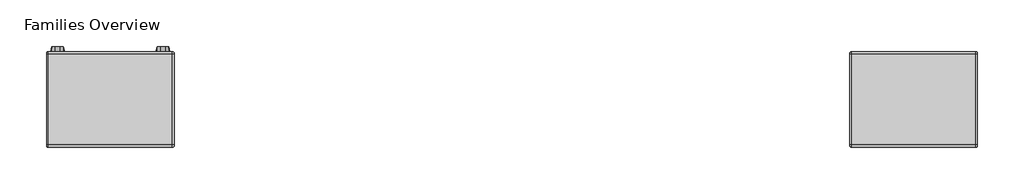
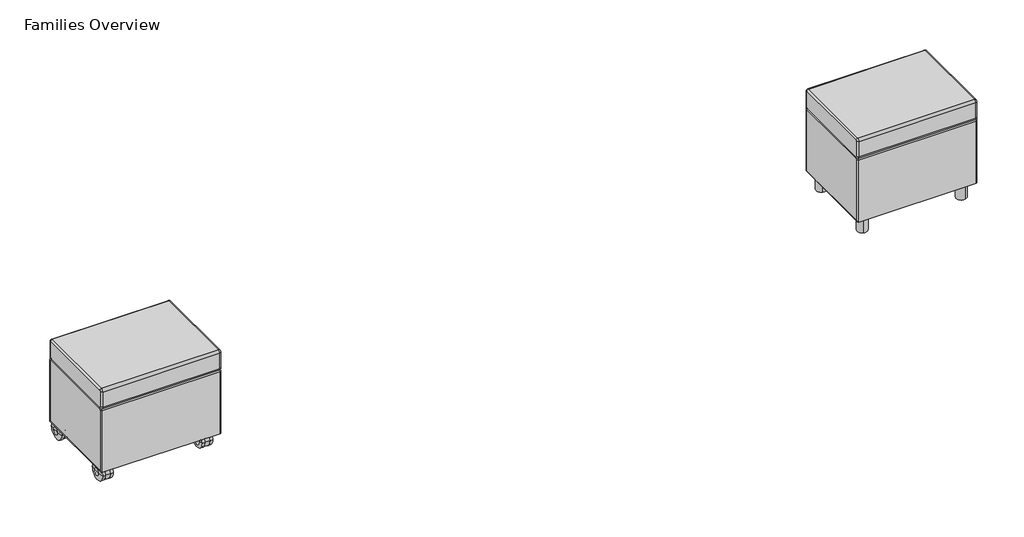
# One storey, incomplete: 2 furniture elements.
"""IFC4 building model written with IfcOpenShell, lengths in millimetres."""

from ifc_helpers import new_model, si_unit, origin, place, context, project, spatial, transform, mapped, element, save
from components import steelcase_coalesse_coupe_seating_ottoman_caster_816df8f0, steelcase_coalesse_coupe_seating_ottoman_caster_cce9e3eb, steelcase_coalesse_coupe_seating_ottoman_glide_1e6cc4b7

model = new_model("IFC4")

# Units and contexts
model_context = context("Model", 3, world=origin())
ifc_project = project(units=[si_unit("LENGTHUNIT", "METRE", prefix="MILLI")], contexts=[model_context])

# Site, building, storey
site = spatial("IfcSite", under=ifc_project)
building = spatial("IfcBuilding", under=site)
storey = spatial("IfcBuildingStorey", under=building, Name="Families Overview", Elevation=0.0)

# Furniture
placement = place(None, origin())
steelcase_coalesse_coupe_seating_ottoman_caster_shape = steelcase_coalesse_coupe_seating_ottoman_caster_816df8f0(model_context)
steelcase_coalesse_coupe_seating_ottoman_caster_2_shape = steelcase_coalesse_coupe_seating_ottoman_caster_cce9e3eb(model_context)
element("IfcFurniture", 1, ObjectType="Steelcase Coalesse - Coupe - Seating - Ottoman : Caster", at=placement, inside=storey, context=model_context, shape_type="MappedRepresentation", body=[
    mapped(steelcase_coalesse_coupe_seating_ottoman_caster_shape, transform((137291.4088845, -41399.3347422, 0.0), x_axis=(1.0, 0.0, 0.0), y_axis=(0.0, 1.0, 0.0), z_axis=(0.0, 0.0, 1.0))),
    mapped(steelcase_coalesse_coupe_seating_ottoman_caster_2_shape, transform((137291.4088845, -41399.3347422, 0.0), x_axis=(1.0, 0.0, 0.0), y_axis=(0.0, 1.0, 0.0), z_axis=(0.0, 0.0, 1.0))),
])
steelcase_coalesse_coupe_seating_ottoman_glide_shape = steelcase_coalesse_coupe_seating_ottoman_glide_1e6cc4b7(model_context)
element("IfcFurniture", 2, ObjectType="Steelcase Coalesse - Coupe - Seating - Ottoman : Glide", at=placement, inside=storey, context=model_context, shape_type="MappedRepresentation", body=[
    mapped(steelcase_coalesse_coupe_seating_ottoman_glide_shape, transform((140491.8088845, -41399.3347422, 0.0), x_axis=(1.0, 0.0, 0.0), y_axis=(0.0, 1.0, 0.0), z_axis=(0.0, 0.0, 1.0))),
])

save(model, "model.ifc")
